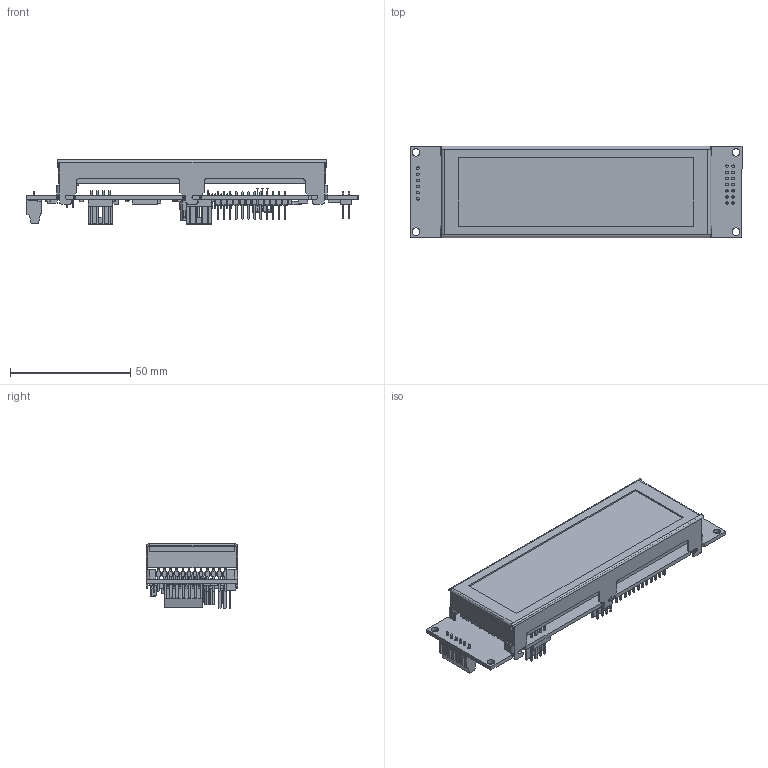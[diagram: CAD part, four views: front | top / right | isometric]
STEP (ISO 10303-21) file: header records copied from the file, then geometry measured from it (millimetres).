
FILE_DESCRIPTION (( 'STEP AP214' ), '1' );
FILE_NAME ('GLX24064-1U-USB R1.0.0.STEP', '2024-05-31T15:24:56', ( '' ), ( '' ), 'SwSTEP 2.0', 'SolidWorks 2021', '' );
FILE_SCHEMA (( 'AUTOMOTIVE_DESIGN' ));
Length unit declared in the file: millimetre
Products named in the file (5): GLX24064-1U-USB R1.0.0; AM0064R Bezel; AM0064R Display Body; 015912240; GLX24064-1U-USB R1.0.0 PCB
Assembly tree (4 placements, depth 2):
  GLX24064-1U-USB R1.0.0
    AM0064R Bezel
    AM0064R Display Body
    015912240
    GLX24064-1U-USB R1.0.0 PCB
Bounding box: 138 x 38 x 26.79 mm (x, y, z)
Volume: 52518.5 mm3; surface area: 37288.1 mm2
Topology: 79 solids, 79 shells, 3921 faces, 9780 edges, 6185 vertices
Faces by surface type: plane 2798, cylinder 560, bspline 517, sphere 32, cone 10, torus 4
Entity records: 152936 total; most frequent: CARTESIAN_POINT 25465, ORIENTED_EDGE 19512, DIRECTION 17789, EDGE_CURVE 9756, LINE 8305, VECTOR 8305, VERTEX_POINT 6177, AXIS2_PLACEMENT_3D 4742
